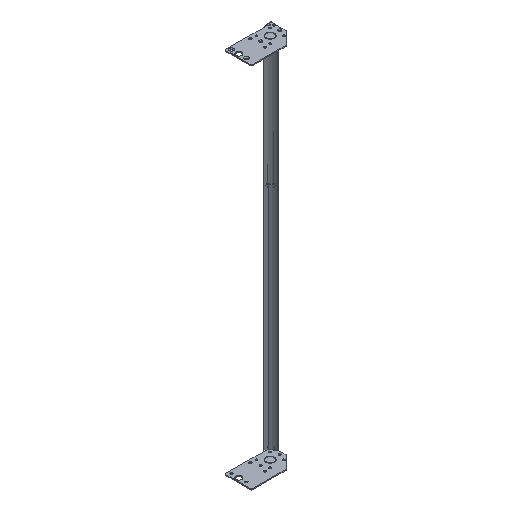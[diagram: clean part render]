
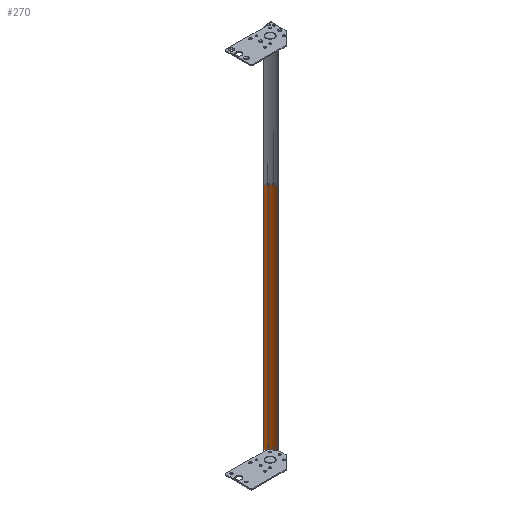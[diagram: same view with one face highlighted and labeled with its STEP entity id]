
A CAD part, isometric view. The second image highlights one B-rep face of the part: STEP entity #270.
In plain terms, the highlighted cylindrical face has radius 40.64 mm (diameter 81.28 mm), a partial arc.
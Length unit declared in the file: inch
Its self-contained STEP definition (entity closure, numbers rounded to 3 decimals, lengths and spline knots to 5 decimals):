
#11=CARTESIAN_POINT('',(-1.52,1.63,-15.118));
#12=DIRECTION('',(0.,0.,-1.));
#13=DIRECTION('',(0.914,-0.405,0.));
#14=AXIS2_PLACEMENT_3D('',#11,#12,#13);
#54=DIRECTION('',(0.,0.,-1.));
#55=VECTOR('',#54,30.236);
#56=CARTESIAN_POINT('',(-1.00032,0.11675,15.118));
#57=LINE('',#56,#55);
#62=DIRECTION('',(0.,0.,-1.));
#63=VECTOR('',#62,30.236);
#64=CARTESIAN_POINT('',(-0.05742,0.98126,15.118));
#65=LINE('',#64,#63);
#92=CARTESIAN_POINT('',(-1.52,1.63,15.118));
#93=DIRECTION('',(0.,0.,1.));
#94=DIRECTION('',(0.325,-0.946,0.));
#95=AXIS2_PLACEMENT_3D('',#92,#93,#94);
#155=CARTESIAN_POINT('',(-0.05742,0.98126,-15.118));
#156=VERTEX_POINT('',#155);
#157=CARTESIAN_POINT('',(-1.00032,0.11675,-15.118));
#158=VERTEX_POINT('',#157);
#178=CARTESIAN_POINT('',(-1.00032,0.11675,15.118));
#180=VERTEX_POINT('',#178);
#181=CARTESIAN_POINT('',(-0.05742,0.98126,15.118));
#182=VERTEX_POINT('',#181);
#257=CARTESIAN_POINT('',(-1.52,1.63,-15.118));
#258=DIRECTION('',(0.,0.,1.));
#259=DIRECTION('',(1.,0.,0.));
#260=AXIS2_PLACEMENT_3D('',#257,#258,#259);
#261=CYLINDRICAL_SURFACE('',#260,1.6);
#262=ORIENTED_EDGE('',*,*,#204,.F.);
#264=ORIENTED_EDGE('',*,*,#263,.F.);
#266=ORIENTED_EDGE('',*,*,#265,.F.);
#267=ORIENTED_EDGE('',*,*,#247,.T.);
#268=EDGE_LOOP('',(#262,#264,#266,#267));
#269=FACE_OUTER_BOUND('',#268,.F.);
#15=CIRCLE('',#14,1.6);
#96=CIRCLE('',#95,1.6);
#204=EDGE_CURVE('',#156,#158,#15,.T.);
#247=EDGE_CURVE('',#180,#158,#57,.T.);
#263=EDGE_CURVE('',#182,#156,#65,.T.);
#265=EDGE_CURVE('',#180,#182,#96,.T.);
#270=ADVANCED_FACE('',(#269),#261,.F.);
